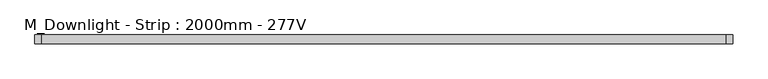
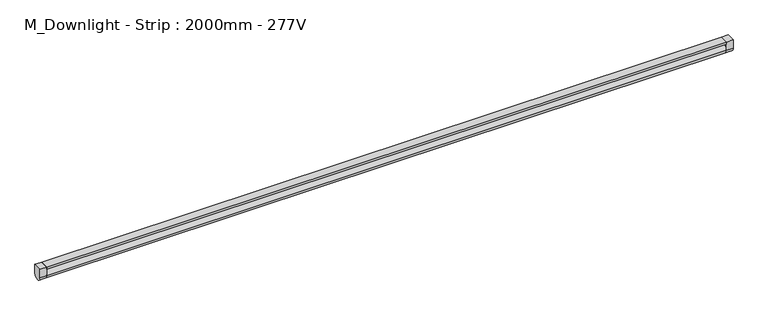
"""IFC4 building model written with IfcOpenShell, lengths in millimetres: light fixture geometry, M_Downlight - Strip : 2000mm - 277V."""

from ifc_helpers import new_model, si_unit, point, frame, frame_2d, origin, place, context, project, spatial, polyline, circle_curve, trimmed, segment, composite_curve, outline, extrude, source, transform, mapped, element, save


def m_downlight_strip_2000mm_277v_8f60c8d5(model_context):
    return source(origin(), model_context, "Body", "SweptSolid", [
        extrude(outline(polyline([(980.95, -205.9435765), (980.95, -231.3435765), (-980.95, -231.3435765), (-980.95, -205.9435765), (980.95, -205.9435765)])), frame((0.0, 0.0, 1343.65), z_axis=(0.0, 0.0, 1.0), x_axis=(1.0, 0.0, 0.0)), (0.0, 0.0, 1.0), 6.35),
        extrude(outline(composite_curve([segment(trimmed(circle_curve(frame_2d((-218.6435765, 1324.6)), 12.7), [point((-205.9435765, 1324.6))], [point((-231.3435765, 1324.6))], False, "CARTESIAN"), True, "CONTINUOUS"), segment(polyline([(-231.3435765, 1324.6), (-231.3435765, 1350.0), (-205.9435765, 1350.0), (-205.9435765, 1324.6)]), True, "CONTINUOUS")], self_intersect=False)), frame((-1000.0, 0.0, 0.0), z_axis=(1.0, 0.0, 0.0), x_axis=(0.0, 1.0, 0.0)), (0.0, 0.0, 1.0), 19.05),
        extrude(outline(composite_curve([segment(trimmed(circle_curve(frame_2d((-218.6435765, 1324.6)), 12.7), [point((-205.9435765, 1324.6))], [point((-231.3435765, 1324.6))], False, "CARTESIAN"), True, "CONTINUOUS"), segment(polyline([(-231.3435765, 1324.6), (-231.3435765, 1350.0), (-205.9435765, 1350.0), (-205.9435765, 1324.6)]), True, "CONTINUOUS")], self_intersect=False)), frame((980.95, 0.0, 0.0), z_axis=(1.0, 0.0, 0.0), x_axis=(0.0, 1.0, 0.0)), (0.0, 0.0, 1.0), 19.05),
        extrude(outline(composite_curve([segment(trimmed(circle_curve(frame_2d((-218.6435765, 1324.6)), 12.7), [point((-231.3435765, 1324.6))], [point((-205.9435765, 1324.6))], False, "CARTESIAN"), True, "CONTINUOUS"), segment(trimmed(circle_curve(frame_2d((-218.6435765, 1324.6)), 12.7), [point((-205.9435765, 1324.6))], [point((-231.3435765, 1324.6))], False, "CARTESIAN"), True, "CONTINUOUS")], self_intersect=False)), frame((-980.95, 0.0, 0.0), z_axis=(1.0, 0.0, 0.0), x_axis=(0.0, 1.0, 0.0)), (0.0, 0.0, 1.0), 1961.9),
    ])


if __name__ == "__main__":
    model = new_model("IFC4")
    model_context = context("Model", 3, world=origin())
    ifc_project = project(units=[si_unit("LENGTHUNIT", "METRE", prefix="MILLI")], contexts=[model_context])
    site = spatial("IfcSite", under=ifc_project)
    building = spatial("IfcBuilding", under=site)
    placement = place(None, origin())
    m_downlight_strip_2000mm_277v_shape = m_downlight_strip_2000mm_277v_8f60c8d5(model_context)
    element("IfcLightFixture", 1, ObjectType="M_Downlight - Strip : 2000mm - 277V", at=placement, inside=building, context=model_context, shape_type="MappedRepresentation", body=[
        mapped(m_downlight_strip_2000mm_277v_shape, transform((0.0, 0.0, 0.0), x_axis=(1.0, 0.0, 0.0), y_axis=(0.0, 1.0, 0.0), z_axis=(0.0, 0.0, 1.0))),
    ])
    save(model, "model.ifc")
